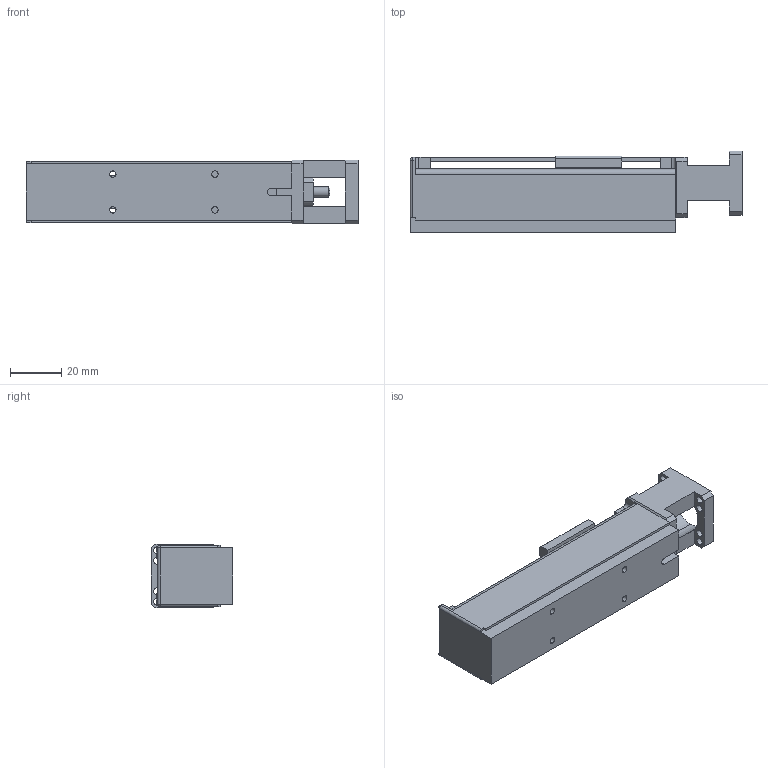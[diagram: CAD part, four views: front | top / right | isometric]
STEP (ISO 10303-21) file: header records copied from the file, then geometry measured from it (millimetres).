
FILE_DESCRIPTION (( 'STEP AP203' ), '1' );
FILE_NAME ('FAS-040.STEP', '2015-08-25T04:51:34', ( '' ), ( '' ), 'SwSTEP 2.0', 'SolidWorks 2015', '' );
FILE_SCHEMA (( 'CONFIG_CONTROL_DESIGN' ));
Length unit declared in the file: millimetre
Products named in the file (1): FAS-040
Bounding box: 130 x 32 x 25 mm (x, y, z)
Volume: 41480.9 mm3; surface area: 26928 mm2
Topology: 2 solids, 2 shells, 146 faces, 417 edges, 270 vertices
Faces by surface type: plane 90, cylinder 52, cone 2, sphere 2
Entity records: 4884 total; most frequent: CARTESIAN_POINT 832, ORIENTED_EDGE 830, DIRECTION 819, EDGE_CURVE 415, LINE 305, VECTOR 305, VERTEX_POINT 270, AXIS2_PLACEMENT_3D 257
